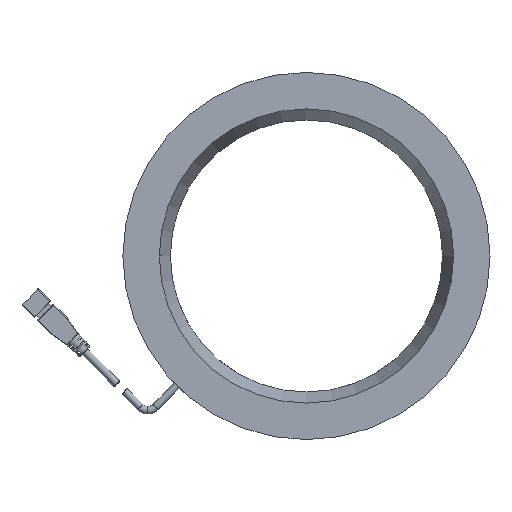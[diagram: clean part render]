
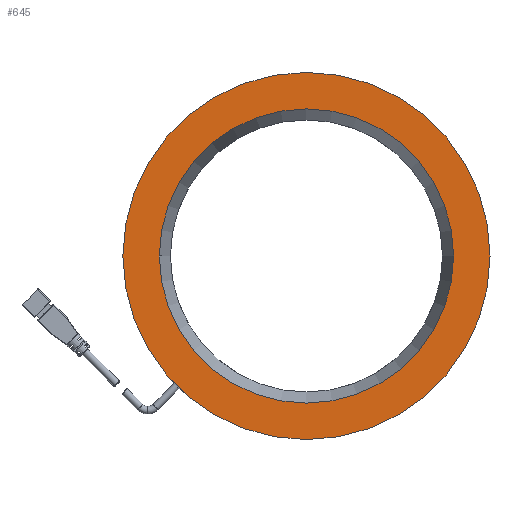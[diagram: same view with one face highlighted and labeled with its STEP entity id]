
A CAD part, front view. The second image highlights one B-rep face of the part: STEP entity #645.
In plain terms, the highlighted planar face has unit normal (0, -1, 0).
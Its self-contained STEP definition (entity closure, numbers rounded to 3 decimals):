
#5=CARTESIAN_POINT('',(0.,-22.,0.));
#6=DIRECTION('',(0.,1.,0.));
#7=DIRECTION('',(1.,0.,0.));
#8=AXIS2_PLACEMENT_3D('',#5,#6,#7);
#10=CARTESIAN_POINT('',(0.,-22.,0.));
#11=DIRECTION('',(0.,1.,0.));
#12=DIRECTION('',(-1.,0.,0.));
#13=AXIS2_PLACEMENT_3D('',#10,#11,#12);
#15=CARTESIAN_POINT('',(0.,-22.,0.));
#16=DIRECTION('',(0.,-1.,0.));
#17=DIRECTION('',(-1.,0.,0.));
#18=AXIS2_PLACEMENT_3D('',#15,#16,#17);
#20=CARTESIAN_POINT('',(0.,-22.,0.));
#21=DIRECTION('',(0.,-1.,0.));
#22=DIRECTION('',(1.,0.,0.));
#23=AXIS2_PLACEMENT_3D('',#20,#21,#22);
#487=CARTESIAN_POINT('',(-68.133,-22.,0.));
#488=CARTESIAN_POINT('',(68.133,-22.,0.));
#489=VERTEX_POINT('',#487);
#490=VERTEX_POINT('',#488);
#495=CARTESIAN_POINT('',(85.,-22.,0.));
#496=CARTESIAN_POINT('',(-85.,-22.,0.));
#497=VERTEX_POINT('',#495);
#498=VERTEX_POINT('',#496);
#629=CARTESIAN_POINT('',(85.,-22.,-100.));
#630=DIRECTION('',(0.,1.,0.));
#631=DIRECTION('',(-1.,0.,0.));
#632=AXIS2_PLACEMENT_3D('',#629,#630,#631);
#633=PLANE('',#632);
#635=ORIENTED_EDGE('',*,*,#634,.T.);
#637=ORIENTED_EDGE('',*,*,#636,.T.);
#638=EDGE_LOOP('',(#635,#637));
#639=FACE_OUTER_BOUND('',#638,.F.);
#640=ORIENTED_EDGE('',*,*,#618,.T.);
#642=ORIENTED_EDGE('',*,*,#641,.T.);
#643=EDGE_LOOP('',(#640,#642));
#644=FACE_BOUND('',#643,.F.);
#9=CIRCLE('',#8,85.);
#14=CIRCLE('',#13,85.);
#19=CIRCLE('',#18,68.133);
#24=CIRCLE('',#23,68.133);
#618=EDGE_CURVE('',#489,#490,#19,.T.);
#634=EDGE_CURVE('',#497,#498,#9,.T.);
#636=EDGE_CURVE('',#498,#497,#14,.T.);
#641=EDGE_CURVE('',#490,#489,#24,.T.);
#645=ADVANCED_FACE('',(#639,#644),#633,.F.);
